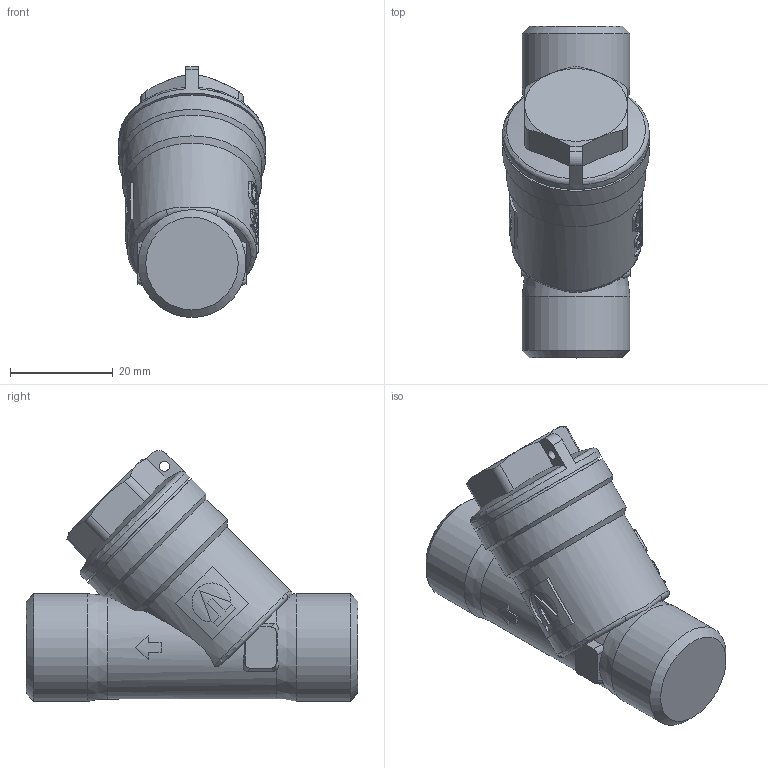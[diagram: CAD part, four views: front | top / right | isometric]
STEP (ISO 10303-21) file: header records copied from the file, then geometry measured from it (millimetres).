
FILE_DESCRIPTION(('STEP AP203'), '1');
FILE_NAME('VT.190.N.04', '2024-06-18T11:28:50', ('User'), ('Vesta'), 'C3D Converter', 'C3D Toolkit', '');
FILE_SCHEMA(('CONFIG_CONTROL_DESIGN'));
Length unit declared in the file: millimetre
Products named in the file (1): ВР.061146.013.000 СБ
Bounding box: 28.5 x 64.5 x 48.78 mm (x, y, z)
Volume: 36861.7 mm3; surface area: 7599 mm2
Topology: 1 solids, 3 shells, 301 faces, 818 edges, 541 vertices
Faces by surface type: plane 120, extrusion 119, cylinder 43, cone 14, torus 4, bspline 1
Full cylindrical faces by diameter (mm): 2 x1, 20.96 x2, 27 x1, 28.5 x2
Entity records: 15002 total; most frequent: CARTESIAN_POINT 8093, ORIENTED_EDGE 1618, DIRECTION 1029, EDGE_CURVE 809, VERTEX_POINT 543, VECTOR 453, B_SPLINE_CURVE_WITH_KNOTS 428, LINE 334
